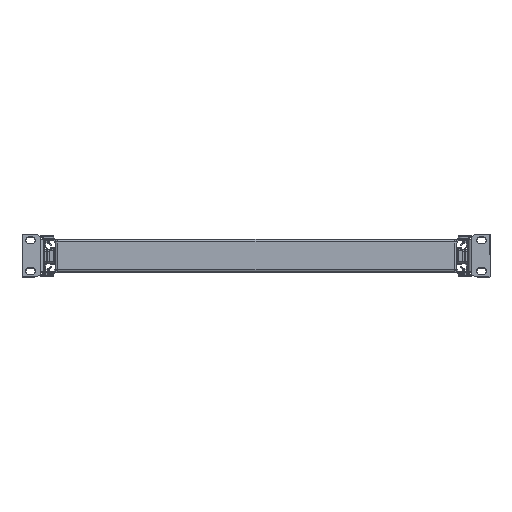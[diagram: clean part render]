
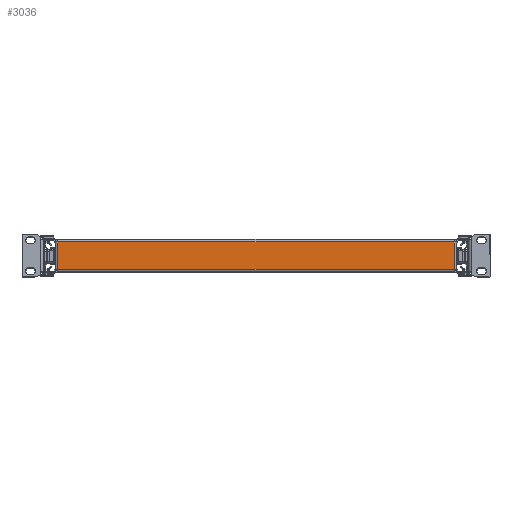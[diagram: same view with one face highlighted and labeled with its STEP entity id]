
A CAD part, top view. The second image highlights one B-rep face of the part: STEP entity #3036.
In plain terms, the highlighted planar face has unit normal (0, 0, 1).
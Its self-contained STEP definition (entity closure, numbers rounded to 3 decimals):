
#1220 = DIRECTION ( 'NONE',  ( -1., 0., 0. ) ) ;
#3036 = ADVANCED_FACE ( 'NONE', ( #48239 ), #47838, .T. ) ;
#3584 = LINE ( 'NONE', #23763, #29822 ) ;
#3589 = ORIENTED_EDGE ( 'NONE', *, *, #45031, .T. ) ;
#5520 = ORIENTED_EDGE ( 'NONE', *, *, #23701, .T. ) ;
#6867 = LINE ( 'NONE', #43681, #36216 ) ;
#9618 = VERTEX_POINT ( 'NONE', #35705 ) ;
#10013 = VECTOR ( 'NONE', #24065, 1000. ) ;
#11000 = CARTESIAN_POINT ( 'NONE',  ( 204.3, -1.5, 175. ) ) ;
#14144 = EDGE_CURVE ( 'NONE', #9618, #26740, #6867, .T. ) ;
#16452 = ORIENTED_EDGE ( 'NONE', *, *, #14144, .T. ) ;
#20702 = CARTESIAN_POINT ( 'NONE',  ( 204.3, -32.6, 175. ) ) ;
#22722 = CARTESIAN_POINT ( 'NONE',  ( -204.3, -29.7, 175. ) ) ;
#23701 = EDGE_CURVE ( 'NONE', #41839, #28902, #33100, .T. ) ;
#23763 = CARTESIAN_POINT ( 'NONE',  ( -204.3, -29.7, 175. ) ) ;
#24005 = CARTESIAN_POINT ( 'NONE',  ( -207.2, 0., 175. ) ) ;
#24065 = DIRECTION ( 'NONE',  ( 0., 1., 0. ) ) ;
#24151 = DIRECTION ( 'NONE',  ( 0., -1., 0. ) ) ;
#26740 = VERTEX_POINT ( 'NONE', #22722 ) ;
#28902 = VERTEX_POINT ( 'NONE', #11000 ) ;
#29822 = VECTOR ( 'NONE', #31843, 1000. ) ;
#31843 = DIRECTION ( 'NONE',  ( 1., 0., 0. ) ) ;
#33100 = LINE ( 'NONE', #20702, #10013 ) ;
#34280 = CARTESIAN_POINT ( 'NONE',  ( 204.3, -29.7, 175. ) ) ;
#35705 = CARTESIAN_POINT ( 'NONE',  ( -204.3, -1.5, 175. ) ) ;
#35881 = ORIENTED_EDGE ( 'NONE', *, *, #39296, .T. ) ;
#36022 = CARTESIAN_POINT ( 'NONE',  ( -207.2, -1.5, 175. ) ) ;
#36216 = VECTOR ( 'NONE', #47847, 1000. ) ;
#39296 = EDGE_CURVE ( 'NONE', #28902, #9618, #49988, .T. ) ;
#39466 = VECTOR ( 'NONE', #1220, 1000. ) ;
#40542 = DIRECTION ( 'NONE',  ( 0., 0., 1. ) ) ;
#41839 = VERTEX_POINT ( 'NONE', #34280 ) ;
#43681 = CARTESIAN_POINT ( 'NONE',  ( -204.3, -1.5, 175. ) ) ;
#43762 = EDGE_LOOP ( 'NONE', ( #16452, #3589, #5520, #35881 ) ) ;
#45031 = EDGE_CURVE ( 'NONE', #26740, #41839, #3584, .T. ) ;
#47838 = PLANE ( 'NONE',  #51150 ) ;
#47847 = DIRECTION ( 'NONE',  ( 0., -1., 0. ) ) ;
#48239 = FACE_OUTER_BOUND ( 'NONE', #43762, .T. ) ;
#49988 = LINE ( 'NONE', #36022, #39466 ) ;
#51150 = AXIS2_PLACEMENT_3D ( 'NONE', #24005, #40542, #24151 ) ;
